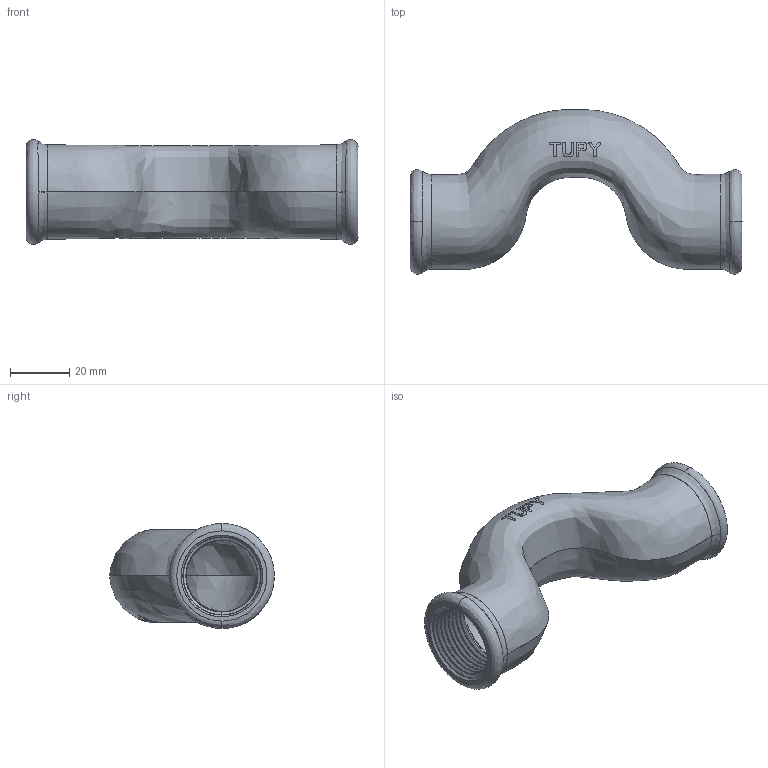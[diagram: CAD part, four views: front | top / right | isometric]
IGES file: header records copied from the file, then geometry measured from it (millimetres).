
Start section: SolidWorks IGES file using analytic representation for surfaces
Global section: file name: C:\Users\Joel Rosa\Desktop\Tubulação\12-28-XXX\12-28-079.IGS; native system: SolidWorks 2011; preprocessor: SolidWorks 2011; author: Joel Rosa; date: 121218.002626; units: millimetre
Bounding box: 112 x 55.57 x 35.39 mm (x, y, z)
Surface area: 24206.2 mm2 (no closed solid volume)
Topology: 0 solids, 0 shells, 331 faces, 3874 edges, 3874 vertices
Faces by surface type: bspline 259, revolution 72
